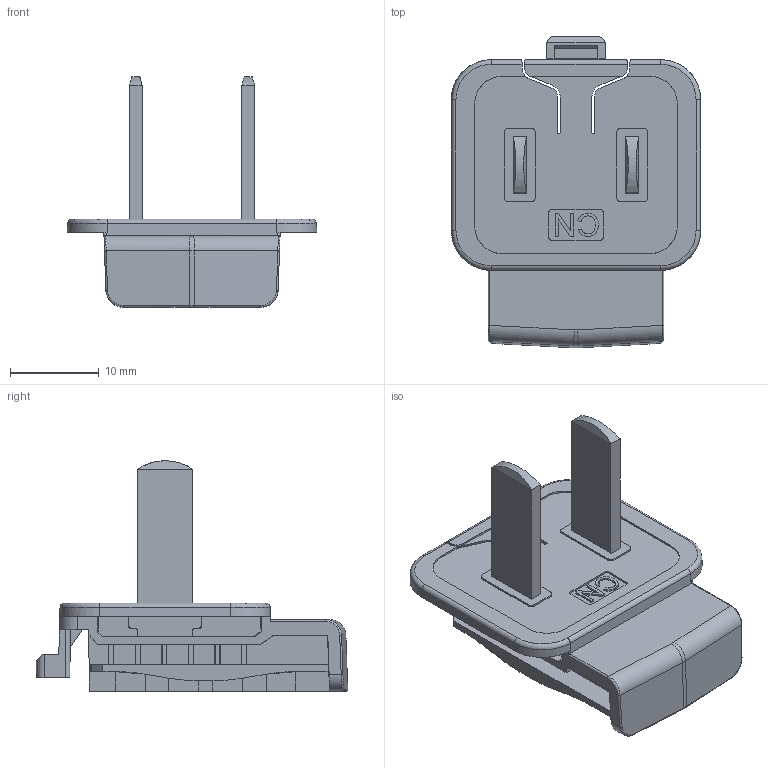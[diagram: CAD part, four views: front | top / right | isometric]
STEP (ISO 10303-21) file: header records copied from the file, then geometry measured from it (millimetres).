
FILE_DESCRIPTION(/* description */ (''),/* implementation_level */ '2;1');
FILE_NAME(/* name */ 'C:\作業區\插頭\5OE0004301H8.stp',/* time_stamp */ '2019-11-06T17:07:49+08:00',/* author */ ('user'),/* organization */ (''),/* preprocessor_version */ 'ST-DEVELOPER v16.1',/* originating_system */ 'Autodesk Inventor 2016',/* authorisation */ '');
FILE_SCHEMA (('AUTOMOTIVE_DESIGN { 1 0 10303 214 3 1 1 }'));
Length unit declared in the file: millimetre
Products named in the file (3): PRT0003_1_CN; PRT0003_ANY_3_1_CN; 5OE0004301H8
Assembly tree (3 placements, depth 2):
  5OE0004301H8
    PRT0003_1_CN  x2
    PRT0003_ANY_3_1_CN
Bounding box: 28.2 x 35.2 x 26.05 mm (x, y, z)
Volume: 3159.5 mm3; surface area: 5275.2 mm2
Topology: 3 solids, 3 shells, 425 faces, 1208 edges, 791 vertices
Faces by surface type: plane 305, cylinder 70, cone 32, bspline 14, torus 4
Entity records: 14587 total; most frequent: CARTESIAN_POINT 3821, ORIENTED_EDGE 2346, DIRECTION 2079, EDGE_CURVE 1173, LINE 909, VECTOR 909, VERTEX_POINT 769, AXIS2_PLACEMENT_3D 585
